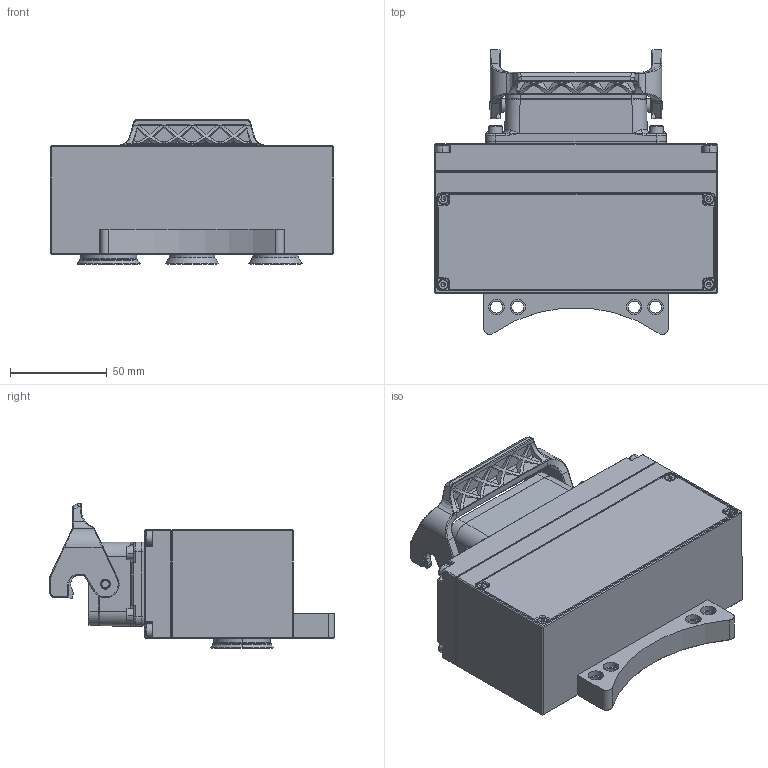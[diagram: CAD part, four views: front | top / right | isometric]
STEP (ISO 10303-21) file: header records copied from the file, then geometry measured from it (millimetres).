
FILE_DESCRIPTION (( 'STEP AP203' ), '1' );
FILE_NAME ('侜督萸爾耀輸R耜.STEP', '2023-12-21T05:31:00', ( '' ), ( '' ), 'SwSTEP 2.0', 'SolidWorks 2018', '' );
FILE_SCHEMA (( 'CONFIG_CONTROL_DESIGN' ));
Products named in the file (1): 侜督萸爾耀輸R耜
Bounding box: 146 x 146.83 x 74.6 mm (x, y, z)
Volume: 684610.2 mm3; surface area: 88838.7 mm2
Topology: 1 solids, 1 shells, 3369 faces, 7839 edges, 4638 vertices
Faces by surface type: plane 2251, cylinder 682, cone 290, bspline 124, torus 20, sphere 2
Entity records: 102070 total; most frequent: CARTESIAN_POINT 28923, ORIENTED_EDGE 15614, DIRECTION 14090, EDGE_CURVE 7807, AXIS2_PLACEMENT_3D 4905, VERTEX_POINT 4638, LINE 4280, VECTOR 4280
